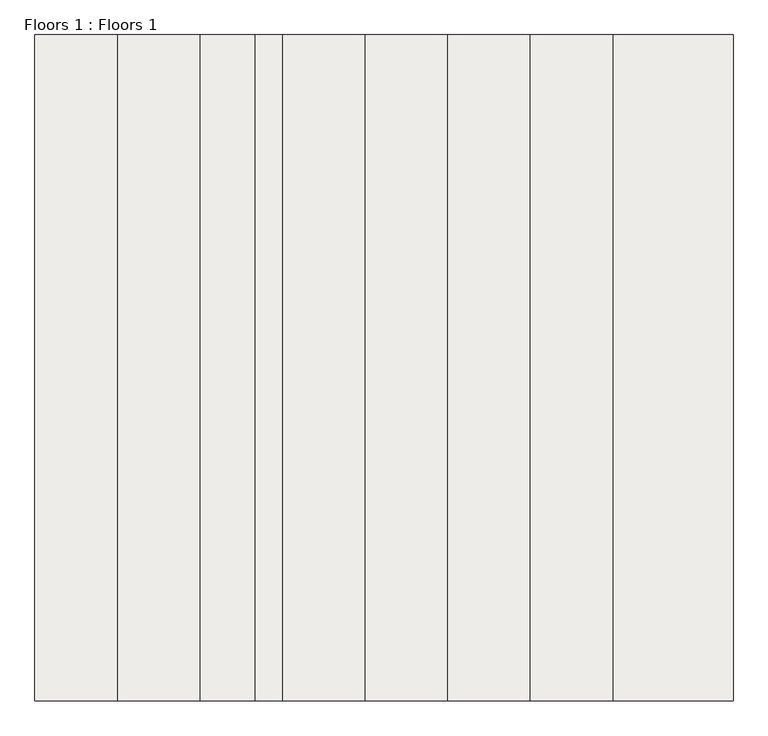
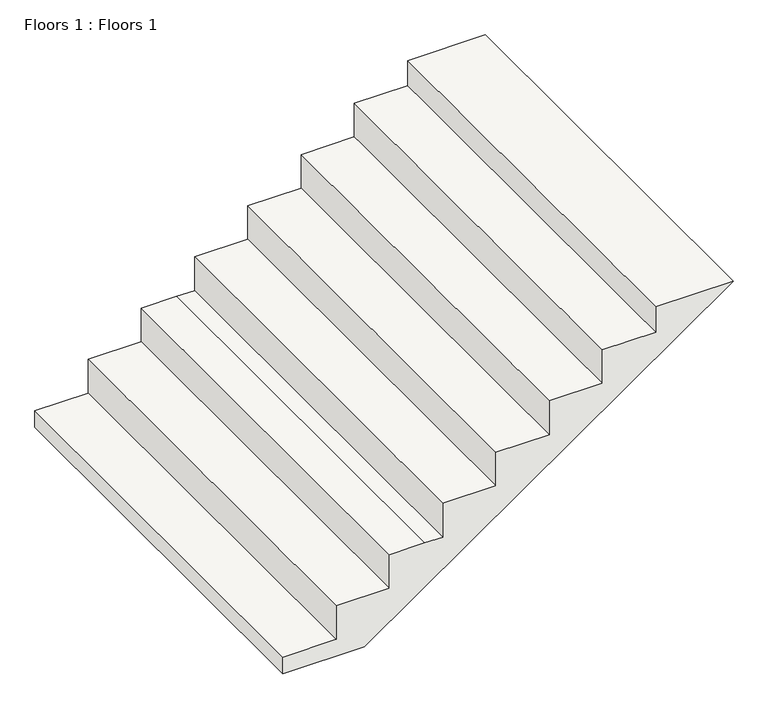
"""IFC4 building model written with IfcOpenShell, lengths in millimetres: slab geometry, Floors 1 : Floors 1."""

from ifc_helpers import new_model, si_unit, frame, origin, place, context, project, spatial, polyline, outline, extrude, source, transform, mapped, element, save


def floors_1_floors_1_983044af(model_context):
    return source(origin(), model_context, "Body", "SweptSolid", [
        extrude(outline(polyline([(5791.2, -139053.0400407), (5486.4, -139053.0400407), (5486.4, -137656.0400407), (9906.0, -131323.8646022), (9906.0, -132652.2400407), (9448.8, -132652.2400407), (9448.8, -133566.6400407), (8839.2, -133566.6400407), (8839.2, -134481.0400407), (8229.6, -134481.0400407), (8229.6, -135395.4400407), (7620.0, -135395.4400407), (7620.0, -136309.8400407), (7010.4, -136309.8400407), (7010.4, -136614.6400407), (7010.4, -137224.2400407), (6400.8, -137224.2400407), (6400.8, -138138.6400407), (5791.2, -138138.6400407), (5791.2, -139053.0400407)])), frame((0.0, 31731.2762968, 0.0), z_axis=(0.0, 1.0, 0.0), x_axis=(0.0, 0.0, 1.0)), (0.0, 0.0, 1.0), 7377.3386047),
    ])


if __name__ == "__main__":
    model = new_model("IFC4")
    model_context = context("Model", 3, world=origin())
    ifc_project = project(units=[si_unit("LENGTHUNIT", "METRE", prefix="MILLI")], contexts=[model_context])
    site = spatial("IfcSite", under=ifc_project)
    building = spatial("IfcBuilding", under=site)
    placement = place(None, origin())
    floors_1_floors_1_shape = floors_1_floors_1_983044af(model_context)
    element("IfcSlab", 1, ObjectType="Floors 1 : Floors 1", at=placement, inside=building, context=model_context, shape_type="MappedRepresentation", body=[
        mapped(floors_1_floors_1_shape, transform((0.0, 0.0, 0.0), x_axis=(1.0, 0.0, 0.0), y_axis=(0.0, 1.0, 0.0), z_axis=(0.0, 0.0, 1.0))),
    ])
    save(model, "model.ifc")
